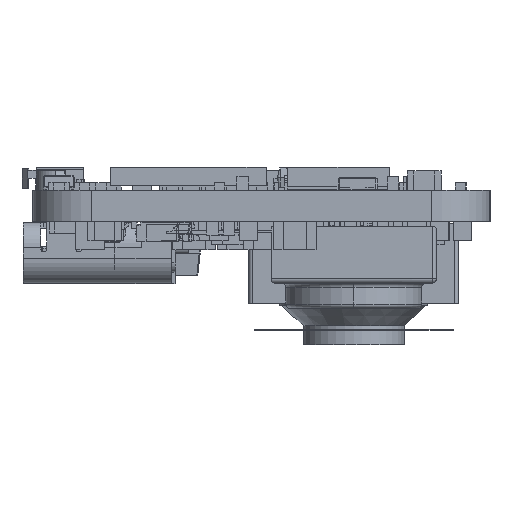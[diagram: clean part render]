
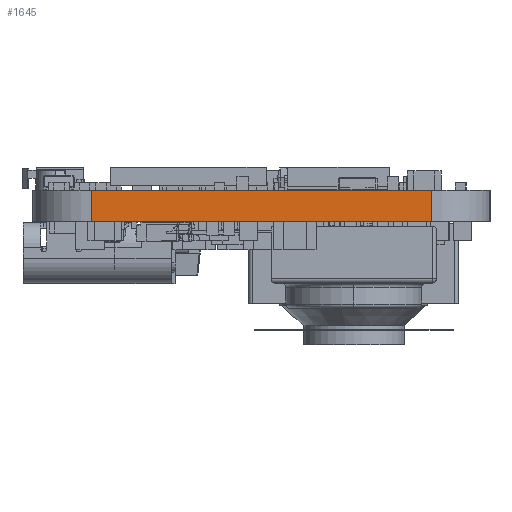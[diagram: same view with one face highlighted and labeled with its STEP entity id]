
A CAD part, left-side view. The second image highlights one B-rep face of the part: STEP entity #1645.
In plain terms, the highlighted planar face has unit normal (-1, 0, 0).
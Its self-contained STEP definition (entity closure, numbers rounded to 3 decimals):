
#1101 = EDGE_CURVE('',#1102,#1104,#1106,.T.);
#1102 = VERTEX_POINT('',#1103);
#1103 = CARTESIAN_POINT('',(0.,2.994,0.)
  );
#1104 = VERTEX_POINT('',#1105);
#1105 = CARTESIAN_POINT('',(0.,2.994,
    1.6));
#1106 = LINE('',#1107,#1108);
#1107 = CARTESIAN_POINT('',(0.,2.994,0.)
  );
#1108 = VECTOR('',#1109,1.);
#1109 = DIRECTION('',(0.,0.,1.));
#1618 = VERTEX_POINT('',#1619);
#1619 = CARTESIAN_POINT('',(0.,20.486,1.6));
#1626 = EDGE_CURVE('',#1627,#1618,#1629,.T.);
#1627 = VERTEX_POINT('',#1628);
#1628 = CARTESIAN_POINT('',(0.,20.486,0.));
#1629 = LINE('',#1630,#1631);
#1630 = CARTESIAN_POINT('',(0.,20.486,0.));
#1631 = VECTOR('',#1632,1.);
#1632 = DIRECTION('',(0.,0.,1.));
#1645 = ADVANCED_FACE('',(#1646),#1662,.F.);
#1646 = FACE_BOUND('',#1647,.F.);
#1647 = EDGE_LOOP('',(#1648,#1649,#1655,#1656));
#1648 = ORIENTED_EDGE('',*,*,#1626,.T.);
#1649 = ORIENTED_EDGE('',*,*,#1650,.T.);
#1650 = EDGE_CURVE('',#1618,#1104,#1651,.T.);
#1651 = LINE('',#1652,#1653);
#1652 = CARTESIAN_POINT('',(0.,20.486,1.6));
#1653 = VECTOR('',#1654,1.);
#1654 = DIRECTION('',(0.,-1.,0.));
#1655 = ORIENTED_EDGE('',*,*,#1101,.F.);
#1656 = ORIENTED_EDGE('',*,*,#1657,.F.);
#1657 = EDGE_CURVE('',#1627,#1102,#1658,.T.);
#1658 = LINE('',#1659,#1660);
#1659 = CARTESIAN_POINT('',(0.,20.486,0.));
#1660 = VECTOR('',#1661,1.);
#1661 = DIRECTION('',(0.,-1.,0.));
#1662 = PLANE('',#1663);
#1663 = AXIS2_PLACEMENT_3D('',#1664,#1665,#1666);
#1664 = CARTESIAN_POINT('',(0.,20.486,0.));
#1665 = DIRECTION('',(1.,0.,0.));
#1666 = DIRECTION('',(0.,-1.,0.));
